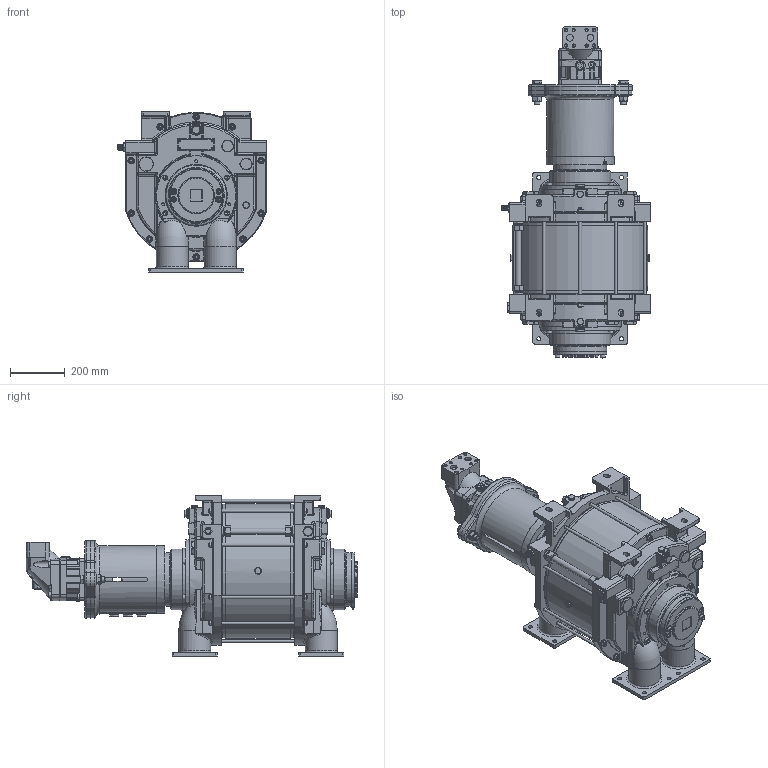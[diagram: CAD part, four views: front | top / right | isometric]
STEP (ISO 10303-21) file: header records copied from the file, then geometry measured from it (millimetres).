
FILE_DESCRIPTION(/* description */ (''),/* implementation_level */ '2;1');
FILE_NAME(/* name */ '1700053A.stp',/* time_stamp */ '2025-04-24T07:58:55+02:00',/* author */ ('JJ'),/* organization */ (''),/* preprocessor_version */ 'ST-DEVELOPER v20',/* originating_system */ 'Autodesk Inventor 2025',/* authorisation */ '');
FILE_SCHEMA (('AUTOMOTIVE_DESIGN { 1 0 10303 214 3 1 1 }'));
Products named in the file (8): 1700053; 910000388; 1700052 Ready for adaptor; 1634814; 944000088; 944000088_part1; 944000088_part2; 944000088_part3
Assembly tree (10 placements, depth 3):
  1700053
    910000388  x4
    1700052 Ready for adaptor
    1634814
    944000088
      944000088_part1
      944000088_part2
      944000088_part3
Bounding box: 545.5 x 1212.3 x 585 mm (x, y, z)
Volume: 115225493.3 mm3; surface area: 3067610.8 mm2
Topology: 9 solids, 10 shells, 3168 faces, 7784 edges, 4873 vertices
Faces by surface type: plane 1334, cylinder 824, cone 370, bspline 352, torus 216, sphere 72
Full cylindrical faces by diameter (mm): 3.3 x8, 3.5 x2, 4 x1, 6.65 x1, 8 x2, 10.106 x18, 10.11 x4, 10.75 x10, 11 x4, 12 x29, 13 x6, 13.5 x4, 13.835 x1, 15 x16, 16.63 x4, 17.294 x1, 18 x22, 19.847 x1, 19.984 x1, 20 x12, 21.8 x6, 22 x1, 23.8 x6, 24 x21, 24.117 x1, 24.5 x2, 25 x2, 26 x2, 26.44 x1, 27 x4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
Entity records: 103343 total; most frequent: CARTESIAN_POINT 30111, ORIENTED_EDGE 15158, DIRECTION 13835, EDGE_CURVE 7579, AXIS2_PLACEMENT_3D 5224, VERTEX_POINT 4801, EDGE_LOOP 3538, LINE 3387
